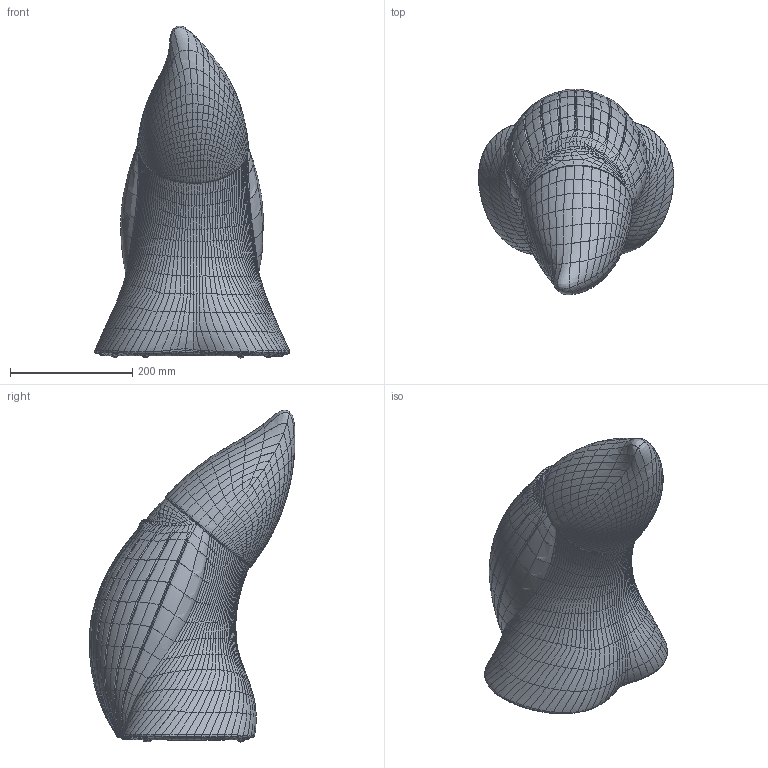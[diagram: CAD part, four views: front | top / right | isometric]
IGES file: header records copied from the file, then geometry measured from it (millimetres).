
Start section: START RECORD GO HERE.
Global section: file name: baddy.igs; native system: IBM CATIA IGES - CATIA Version 5 Release 18 ; preprocessor: CATIA Version 5 Release 18 ; author: alberto_brogliato; organization: DOMAIN; date: 20120615.114956; units: millimetre
Bounding box: 320.23 x 337.37 x 544.07 mm (x, y, z)
Surface area: 434715.3 mm2 (no closed solid volume)
Topology: 0 solids, 0 shells, 3123 faces, 12492 edges, 12492 vertices
Faces by surface type: bspline 3123
